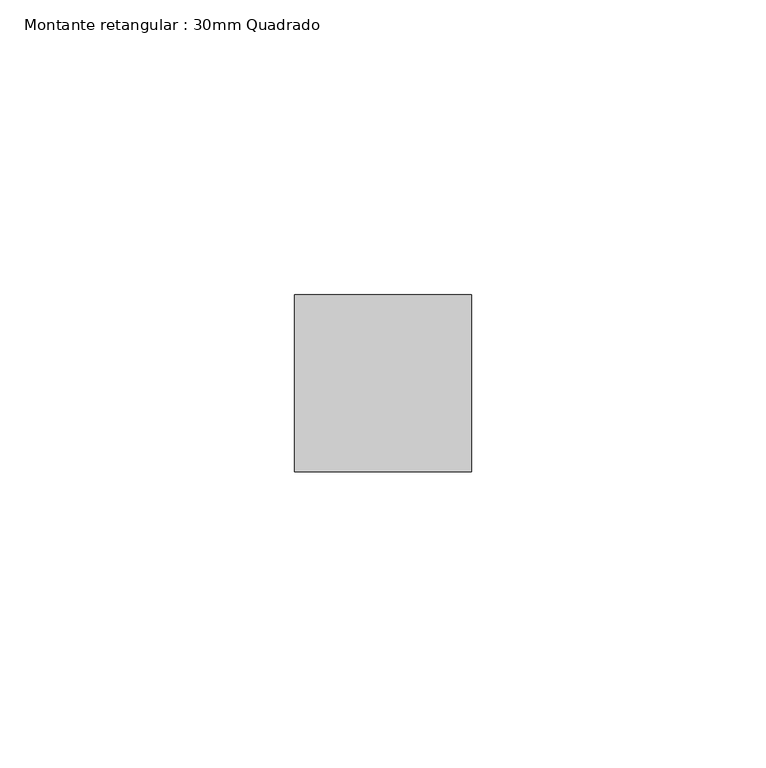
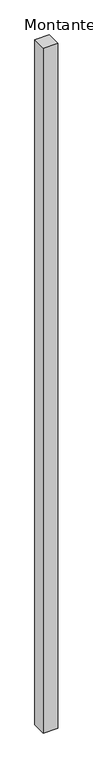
"""IFC4 building model written with IfcOpenShell, lengths in millimetres: member geometry, Montante retangular : 30mm Quadrado."""

from ifc_helpers import new_model, si_unit, frame, origin, place, context, project, spatial, polyline, outline, extrude, source, transform, mapped, element, save


def montante_retangular_30mm_quadrado_0448d2ee(model_context):
    return source(origin(), model_context, "Body", "SweptSolid", [
        extrude(outline(polyline([(0.0, 15.0), (0.0, -15.0), (-30.0, -15.0), (-30.0, 15.0), (0.0, 15.0)])), frame((0.0, 0.0, -1500.0), z_axis=(0.0, 0.0, 1.0), x_axis=(1.0, 0.0, 0.0)), (0.0, 0.0, 1.0), 1500.0),
    ])


if __name__ == "__main__":
    model = new_model("IFC4")
    model_context = context("Model", 3, world=origin())
    ifc_project = project(units=[si_unit("LENGTHUNIT", "METRE", prefix="MILLI")], contexts=[model_context])
    site = spatial("IfcSite", under=ifc_project)
    building = spatial("IfcBuilding", under=site)
    placement = place(None, origin())
    montante_retangular_30mm_quadrado_shape = montante_retangular_30mm_quadrado_0448d2ee(model_context)
    element("IfcMember", 1, ObjectType="Montante retangular : 30mm Quadrado", at=placement, inside=building, context=model_context, shape_type="MappedRepresentation", body=[
        mapped(montante_retangular_30mm_quadrado_shape, transform((0.0, 0.0, 0.0), x_axis=(1.0, 0.0, 0.0), y_axis=(0.0, 1.0, 0.0), z_axis=(0.0, 0.0, 1.0))),
    ])
    save(model, "model.ifc")
